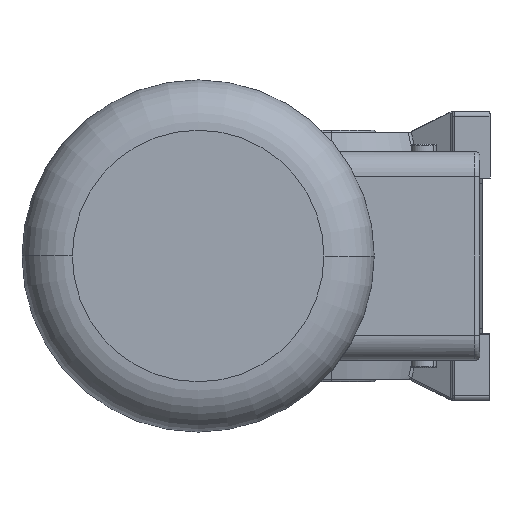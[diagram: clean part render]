
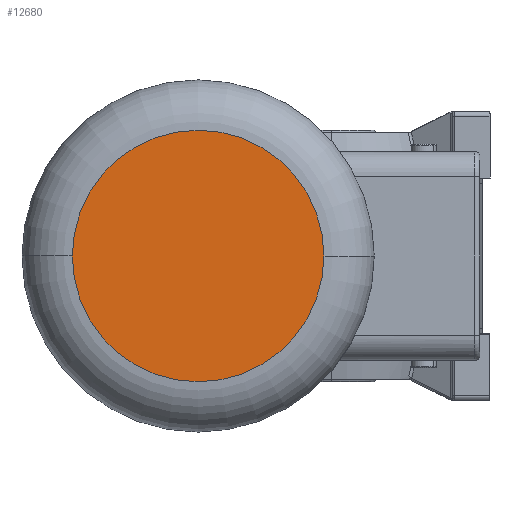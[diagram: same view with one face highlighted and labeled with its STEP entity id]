
A CAD part, left-side view. The second image highlights one B-rep face of the part: STEP entity #12680.
In plain terms, the highlighted planar face has unit normal (-1, 0, 0).
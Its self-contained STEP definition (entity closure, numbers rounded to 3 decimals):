
#89 = DIRECTION ( 'NONE',  ( 0., 0., -1. ) ) ;
#576 = DIRECTION ( 'NONE',  ( -1., 0., 0. ) ) ;
#913 = DIRECTION ( 'NONE',  ( 0., 0., -1. ) ) ;
#2044 = AXIS2_PLACEMENT_3D ( 'NONE', #5523, #576, #11799 ) ;
#2704 = ORIENTED_EDGE ( 'NONE', *, *, #9395, .T. ) ;
#3362 = EDGE_CURVE ( 'NONE', #3661, #9700, #12279, .T. ) ;
#3661 = VERTEX_POINT ( 'NONE', #11444 ) ;
#5523 = CARTESIAN_POINT ( 'NONE',  ( 0., 0., 0. ) ) ;
#6485 = DIRECTION ( 'NONE',  ( -1., 0., 0. ) ) ;
#7105 = FACE_OUTER_BOUND ( 'NONE', #11876, .T. ) ;
#7399 = CARTESIAN_POINT ( 'NONE',  ( 0., 0., 0. ) ) ;
#9395 = EDGE_CURVE ( 'NONE', #9700, #3661, #13531, .T. ) ;
#9700 = VERTEX_POINT ( 'NONE', #12548 ) ;
#9787 = DIRECTION ( 'NONE',  ( 1., 0., 0. ) ) ;
#11444 = CARTESIAN_POINT ( 'NONE',  ( 0., 0., 50. ) ) ;
#11799 = DIRECTION ( 'NONE',  ( 0., 0., -1. ) ) ;
#11876 = EDGE_LOOP ( 'NONE', ( #2704, #12300 ) ) ;
#12279 = CIRCLE ( 'NONE', #15739, 50. ) ;
#12300 = ORIENTED_EDGE ( 'NONE', *, *, #3362, .T. ) ;
#12548 = CARTESIAN_POINT ( 'NONE',  ( 0., 0., -50. ) ) ;
#12680 = ADVANCED_FACE ( 'NONE', ( #7105 ), #13642, .F. ) ;
#13040 = AXIS2_PLACEMENT_3D ( 'NONE', #16153, #9787, #913 ) ;
#13531 = CIRCLE ( 'NONE', #2044, 50. ) ;
#13642 = PLANE ( 'NONE',  #13040 ) ;
#15739 = AXIS2_PLACEMENT_3D ( 'NONE', #7399, #6485, #89 ) ;
#16153 = CARTESIAN_POINT ( 'NONE',  ( 0., 0., 0. ) ) ;
